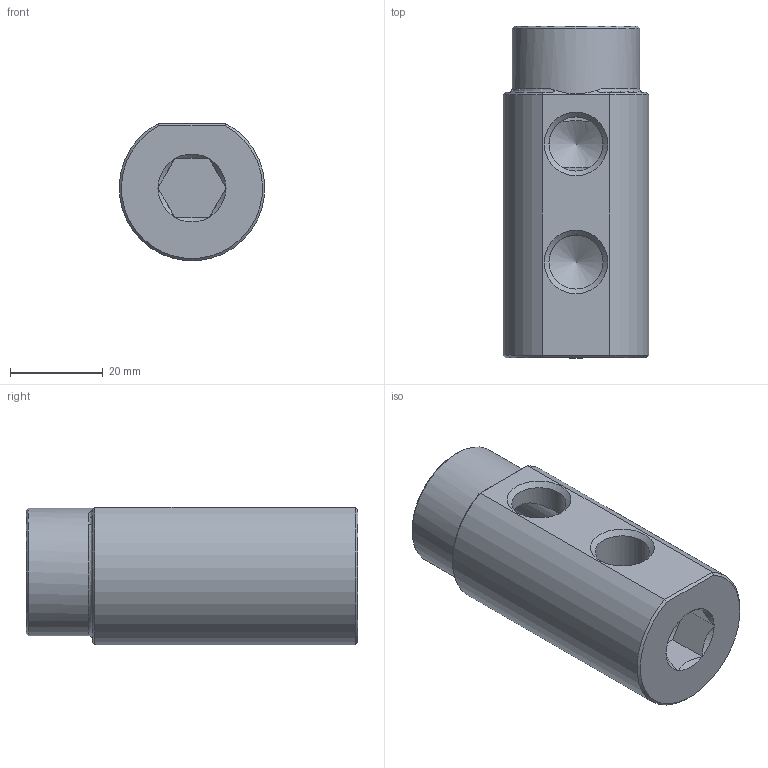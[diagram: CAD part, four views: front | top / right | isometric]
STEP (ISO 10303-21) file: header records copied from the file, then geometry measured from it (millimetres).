
FILE_DESCRIPTION(/* description */ (''),/* implementation_level */ '2;1');
FILE_NAME(/* name */ 'C:/Users/drich/Desktop/E121H-4 v2.step',/* time_stamp */ '2019-11-18T13:42:49-06:00',/* author */ (''),/* organization */ (''),/* preprocessor_version */ 'ST-DEVELOPER v18',/* originating_system */ 'Autodesk Translation Framework v8.12.0.6',/* authorisation */ '');
FILE_SCHEMA (('AUTOMOTIVE_DESIGN { 1 0 10303 214 3 1 1 }'));
Length unit declared in the file: inch
Products named in the file (2): E121H-4; E121h-4_1
Assembly tree (1 placements, depth 2):
  E121H-4
    E121h-4_1
Bounding box: 31.31 x 71.42 x 29.53 mm (x, y, z)
Volume: 35828.3 mm3; surface area: 11784.1 mm2
Topology: 1 solids, 1 shells, 39 faces, 106 edges, 70 vertices
Faces by surface type: cone 15, plane 14, cylinder 9, torus 1
Full cylindrical faces by diameter (mm): 9.881 x1, 11.668 x2, 14.884 x1, 18.901 x1, 27.432 x1
Entity records: 1456 total; most frequent: CARTESIAN_POINT 427, ORIENTED_EDGE 208, DIRECTION 199, EDGE_CURVE 104, AXIS2_PLACEMENT_3D 77, VERTEX_POINT 70, EDGE_LOOP 46, LINE 45
